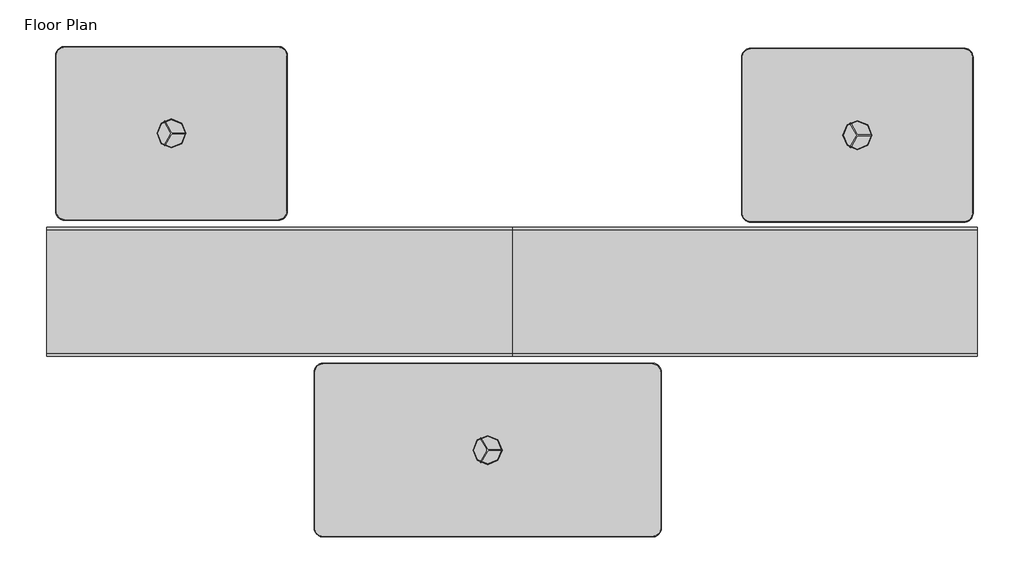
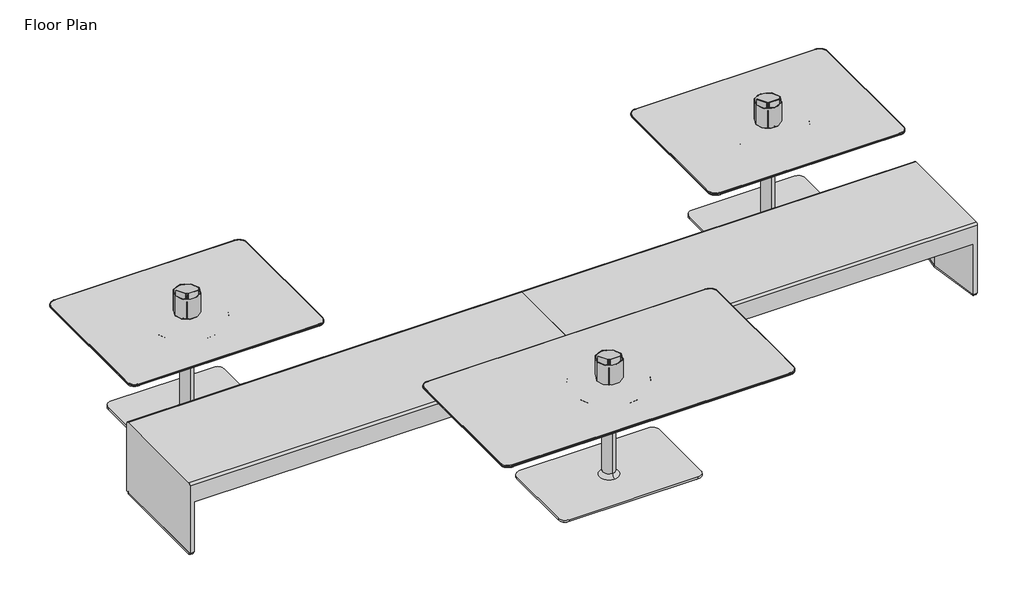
# One storey, incomplete: 8 furniture elements.
"""IFC4 building model written with IfcOpenShell, lengths in millimetres."""

from ifc_helpers import new_model, si_unit, origin, place, context, project, spatial, transform, mapped, element, save
from components import furniture_56d704a0, furniture_4407a506, steelcase_coalesse_sw_1_table_power_pod_power_pod_04608cef, without_back_96_5w_5c585f7c

model = new_model("IFC4")

# Units and contexts
model_context = context("Model", 3, world=origin())
ifc_project = project(units=[si_unit("LENGTHUNIT", "METRE", prefix="MILLI")], contexts=[model_context])

# Site, building, storey
site = spatial("IfcSite", under=ifc_project)
building = spatial("IfcBuilding", under=site)
storey = spatial("IfcBuildingStorey", under=building, Name="Floor Plan", Elevation=900.0)

# Furniture
placement = place(None, origin())
furniture_shape = furniture_56d704a0(model_context)
element("IfcFurniture", 1, ObjectType="Steelcase Coalesse - Lagunitas - Table - Work (1) : 26H x 36D x 72W", at=placement, inside=storey, context=model_context, shape_type="MappedRepresentation", body=[
    mapped(furniture_shape, transform((-767.1341562, -327480.1136626, 900.0), x_axis=(1.0, 0.0, 0.0), y_axis=(0.0, 1.0, 0.0), z_axis=(0.0, 0.0, 1.0))),
])
furniture_2_shape = furniture_4407a506(model_context)
element("IfcFurniture", 2, ObjectType="Steelcase Coalesse - Lagunitas - Table - Work (1) : 26H x 36D x 48W", at=placement, inside=storey, context=model_context, shape_type="MappedRepresentation", body=[
    mapped(furniture_2_shape, transform((1179.6376048, -325821.6902244, 900.0), x_axis=(1.0, 0.0, 0.0), y_axis=(0.0, 1.0, 0.0), z_axis=(0.0, 0.0, 1.0))),
])
element("IfcFurniture", 3, ObjectType="Steelcase Coalesse - Lagunitas - Table - Work (1) : 26H x 36D x 48W", at=placement, inside=storey, context=model_context, shape_type="MappedRepresentation", body=[
    mapped(furniture_2_shape, transform((-2432.0500571, -325811.9967405, 900.0), x_axis=(1.0, 0.0, 0.0), y_axis=(0.0, 1.0, 0.0), z_axis=(0.0, 0.0, 1.0))),
])
steelcase_coalesse_sw_1_table_power_pod_power_pod_shape = steelcase_coalesse_sw_1_table_power_pod_power_pod_04608cef(model_context)
element("IfcFurniture", 4, ObjectType="Steelcase Coalesse - SW_1 - Table - Power Pod : Power Pod", at=placement, inside=storey, context=model_context, shape_type="MappedRepresentation", body=[
    mapped(steelcase_coalesse_sw_1_table_power_pod_power_pod_shape, transform((-2431.7450513, -325811.9967405, 1545.7143109), x_axis=(1.0, 0.0, 0.0), y_axis=(0.0, 1.0, 0.0), z_axis=(0.0, 0.0, 1.0))),
])
element("IfcFurniture", 5, ObjectType="Steelcase Coalesse - SW_1 - Table - Power Pod : Power Pod", at=placement, inside=storey, context=model_context, shape_type="MappedRepresentation", body=[
    mapped(steelcase_coalesse_sw_1_table_power_pod_power_pod_shape, transform((1179.9426106, -325821.6902244, 1545.7143109), x_axis=(1.0, 0.0, 0.0), y_axis=(0.0, 1.0, 0.0), z_axis=(0.0, 0.0, 1.0))),
])
element("IfcFurniture", 6, ObjectType="Steelcase Coalesse - SW_1 - Table - Power Pod : Power Pod", at=placement, inside=storey, context=model_context, shape_type="MappedRepresentation", body=[
    mapped(steelcase_coalesse_sw_1_table_power_pod_power_pod_shape, transform((-766.8291503, -327480.1136626, 1539.4013958), x_axis=(1.0, 0.0, 0.0), y_axis=(0.0, 1.0, 0.0), z_axis=(0.0, 0.0, 1.0))),
])
without_back_96_5w_shape = without_back_96_5w_5c585f7c(model_context)
element("IfcFurniture", 7, ObjectType="Steelcase Coalesse - Together - Seating - Bench - Straight : Without Back - 96.5W", at=placement, inside=storey, context=model_context, shape_type="MappedRepresentation", body=[
    mapped(without_back_96_5w_shape, transform((-1189.4906856, -326986.323697, 900.0), x_axis=(1.0, 0.0, 0.0), y_axis=(0.0, 1.0, 0.0), z_axis=(0.0, 0.0, 1.0))),
])
element("IfcFurniture", 8, ObjectType="Steelcase Coalesse - Together - Seating - Bench - Straight : Without Back - 96.5W", at=placement, inside=storey, context=model_context, shape_type="MappedRepresentation", body=[
    mapped(without_back_96_5w_shape, transform((1261.6093144, -326986.323697, 900.0), x_axis=(1.0, 0.0, 0.0), y_axis=(0.0, 1.0, 0.0), z_axis=(0.0, 0.0, 1.0))),
])

save(model, "model.ifc")
